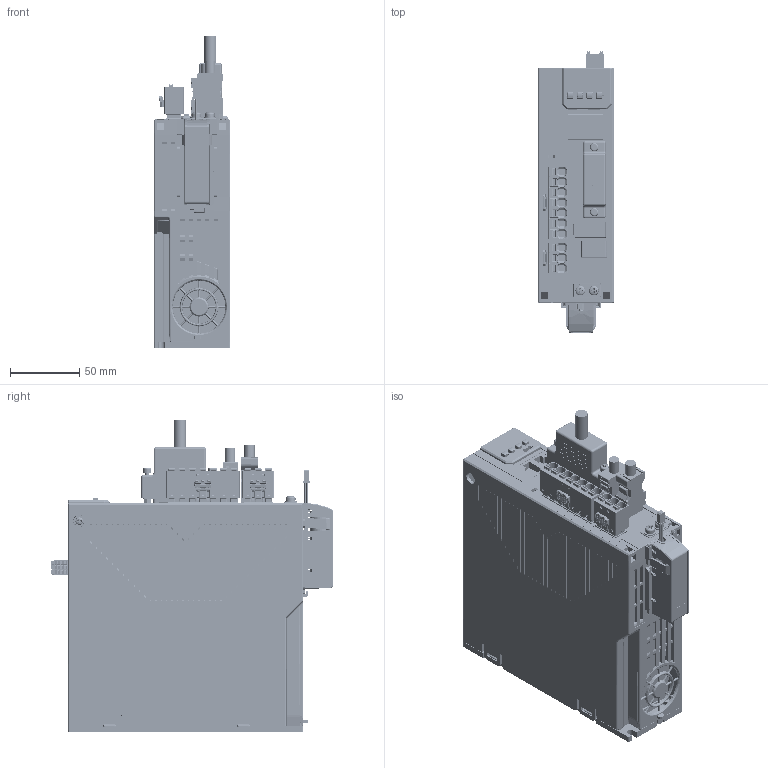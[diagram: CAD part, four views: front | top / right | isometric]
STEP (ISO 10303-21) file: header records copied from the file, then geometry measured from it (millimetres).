
FILE_DESCRIPTION((''),'2;1');
FILE_NAME('SD900-6R0D-PA_ASM','2025-09-28T',('v5489'),(''),'CREO PARAMETRIC BY PTC INC, 2018360','CREO PARAMETRIC BY PTC INC, 2018360','');
FILE_SCHEMA(('AP203_CONFIGURATION_CONTROLLED_3D_DESIGN_OF_MECHANICAL_PARTS_AND_ASSEMBLIES_MIM_LF { 1 0 10303 403 2 1 2 }'));
Products named in the file (20): 00-SD900-6R0D-PA_ASM_1_1; 00-SD900-6R0D-PA_ASM_1_2; 00-SD900-6R0D-PA_ASM_1_3; 00-SD900-6R0D-PA_ASM_1_ASM; SD900-DCH-P001_284; SD900-DCH-N001_98; 14505_50_1; 14505_50_2; 14505_50_3; 14505_50_ASM; S6-C4A_31; SD900-DCH-P_ASM_535_ASM; SD900-DCH-P_ASM_ASM; 5006540609; 1394SM_10P_; DB-44-1; F9AP-7_5-03P-A; F9AP-7_5-07P-A; 15EDGKNH-3_5-04P-14-00A_H_; SD900-6R0D-PA_ASM
Assembly tree (19 placements, depth 5):
  SD900-6R0D-PA_ASM
    00-SD900-6R0D-PA_ASM_1_ASM
      00-SD900-6R0D-PA_ASM_1_1
      00-SD900-6R0D-PA_ASM_1_2
      00-SD900-6R0D-PA_ASM_1_3
    SD900-DCH-P_ASM_ASM
      SD900-DCH-P_ASM_535_ASM
        SD900-DCH-P001_284
        SD900-DCH-N001_98
        14505_50_ASM
          14505_50_1
          14505_50_2
          14505_50_3
        S6-C4A_31
    5006540609
    1394SM_10P_
    DB-44-1
    F9AP-7_5-03P-A
    F9AP-7_5-07P-A
    15EDGKNH-3_5-04P-14-00A_H_
Bounding box: 55 x 204.2 x 226.45 mm (x, y, z)
Volume: 80449.2 mm3; surface area: 300220.7 mm2
Topology: 29 solids, 73 shells, 17794 faces, 47611 edges, 29897 vertices
Faces by surface type: plane 9649, cylinder 4953, bspline 1120, torus 732, cone 633, sphere 423, extrusion 282, revolution 2
Entity records: 709533 total; most frequent: CARTESIAN_POINT 198190, ORIENTED_EDGE 94266, DIRECTION 82667, EDGE_CURVE 47183, VECTOR 30877, LINE 30595, VERTEX_POINT 29897, AXIS2_PLACEMENT_3D 25894
